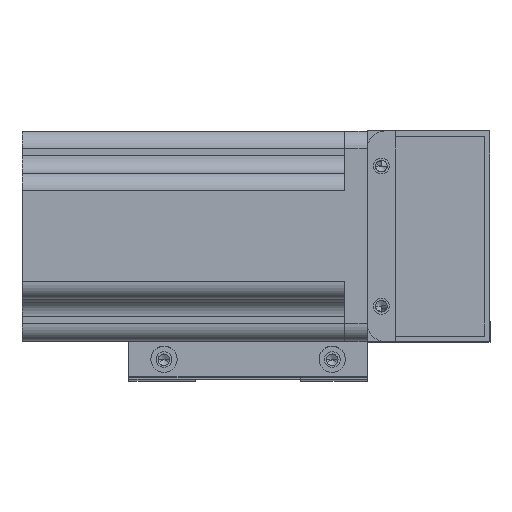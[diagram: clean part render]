
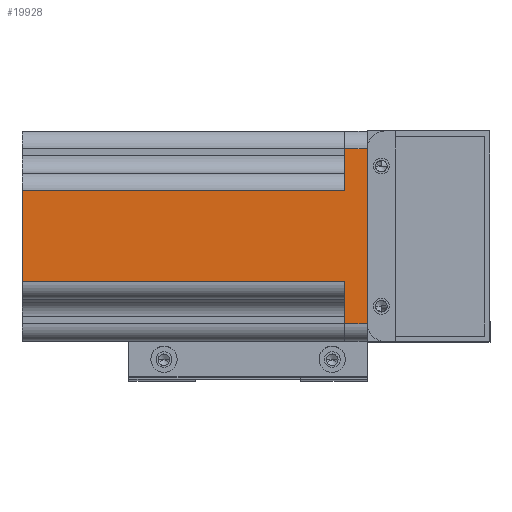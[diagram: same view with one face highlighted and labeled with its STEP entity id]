
A CAD part, top view. The second image highlights one B-rep face of the part: STEP entity #19928.
In plain terms, the highlighted planar face has unit normal (0, 0, 1) as drawn and (0, 1, 0) by its records, which use the part's own axes.
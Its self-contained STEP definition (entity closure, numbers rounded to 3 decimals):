
#35 = CARTESIAN_POINT ( 'NONE',  ( -25., 30., 6.5 ) ) ;
#132 = LINE ( 'NONE', #9503, #7995 ) ;
#442 = DIRECTION ( 'NONE',  ( 0., 0., 1. ) ) ;
#914 = CARTESIAN_POINT ( 'NONE',  ( -25., 30., 0. ) ) ;
#1164 = CARTESIAN_POINT ( 'NONE',  ( -25., 30., 0. ) ) ;
#1261 = ORIENTED_EDGE ( 'NONE', *, *, #13698, .F. ) ;
#2770 = DIRECTION ( 'NONE',  ( 0., 0., -1. ) ) ;
#3170 = DIRECTION ( 'NONE',  ( -1., 0., 0. ) ) ;
#3651 = DIRECTION ( 'NONE',  ( 0., 0., -1. ) ) ;
#3711 = VECTOR ( 'NONE', #442, 1000. ) ;
#3780 = VERTEX_POINT ( 'NONE', #7729 ) ;
#3999 = LINE ( 'NONE', #22349, #23915 ) ;
#4012 = LINE ( 'NONE', #21007, #6451 ) ;
#4023 = PLANE ( 'NONE',  #11636 ) ;
#4482 = DIRECTION ( 'NONE',  ( -1., 0., 0. ) ) ;
#4523 = CARTESIAN_POINT ( 'NONE',  ( 25., 30., 0. ) ) ;
#4610 = VERTEX_POINT ( 'NONE', #1164 ) ;
#4773 = EDGE_LOOP ( 'NONE', ( #6024, #8104, #5326, #19639, #14260, #14166, #1261, #8090 ) ) ;
#5005 = VERTEX_POINT ( 'NONE', #21678 ) ;
#5326 = ORIENTED_EDGE ( 'NONE', *, *, #6663, .F. ) ;
#5764 = EDGE_CURVE ( 'NONE', #17309, #3780, #4012, .T. ) ;
#6024 = ORIENTED_EDGE ( 'NONE', *, *, #12546, .T. ) ;
#6436 = VECTOR ( 'NONE', #3651, 1000. ) ;
#6451 = VECTOR ( 'NONE', #11423, 1000. ) ;
#6663 = EDGE_CURVE ( 'NONE', #20969, #3780, #17171, .T. ) ;
#6697 = VERTEX_POINT ( 'NONE', #4523 ) ;
#7729 = CARTESIAN_POINT ( 'NONE',  ( 13., 30., -92. ) ) ;
#7995 = VECTOR ( 'NONE', #13424, 1000. ) ;
#8090 = ORIENTED_EDGE ( 'NONE', *, *, #22936, .T. ) ;
#8104 = ORIENTED_EDGE ( 'NONE', *, *, #5764, .T. ) ;
#9419 = EDGE_CURVE ( 'NONE', #5005, #4610, #15217, .T. ) ;
#9466 = LINE ( 'NONE', #17950, #3711 ) ;
#9503 = CARTESIAN_POINT ( 'NONE',  ( -25., 30., 6.5 ) ) ;
#9866 = DIRECTION ( 'NONE',  ( 0., -1., 0. ) ) ;
#10062 = EDGE_CURVE ( 'NONE', #20969, #14774, #9466, .T. ) ;
#11270 = CARTESIAN_POINT ( 'NONE',  ( -25., 30., 6.5 ) ) ;
#11423 = DIRECTION ( 'NONE',  ( 0., 0., -1. ) ) ;
#11636 = AXIS2_PLACEMENT_3D ( 'NONE', #35, #9866, #17553 ) ;
#12058 = FACE_OUTER_BOUND ( 'NONE', #4773, .T. ) ;
#12546 = EDGE_CURVE ( 'NONE', #6697, #17309, #14801, .T. ) ;
#12679 = VECTOR ( 'NONE', #22050, 1000. ) ;
#13424 = DIRECTION ( 'NONE',  ( -1., 0., 0. ) ) ;
#13698 = EDGE_CURVE ( 'NONE', #17164, #5005, #132, .T. ) ;
#14166 = ORIENTED_EDGE ( 'NONE', *, *, #9419, .F. ) ;
#14260 = ORIENTED_EDGE ( 'NONE', *, *, #24653, .T. ) ;
#14771 = CARTESIAN_POINT ( 'NONE',  ( -25., 30., 0. ) ) ;
#14774 = VERTEX_POINT ( 'NONE', #19134 ) ;
#14801 = LINE ( 'NONE', #14771, #25036 ) ;
#15217 = LINE ( 'NONE', #11270, #6436 ) ;
#16312 = VECTOR ( 'NONE', #4482, 1000. ) ;
#17164 = VERTEX_POINT ( 'NONE', #18729 ) ;
#17171 = LINE ( 'NONE', #17958, #12679 ) ;
#17302 = CARTESIAN_POINT ( 'NONE',  ( 13., 30., 0. ) ) ;
#17309 = VERTEX_POINT ( 'NONE', #17302 ) ;
#17553 = DIRECTION ( 'NONE',  ( 0., 0., -1. ) ) ;
#17950 = CARTESIAN_POINT ( 'NONE',  ( -13., 30., 6.5 ) ) ;
#17958 = CARTESIAN_POINT ( 'NONE',  ( -18., 30., -92. ) ) ;
#18729 = CARTESIAN_POINT ( 'NONE',  ( 25., 30., 6.5 ) ) ;
#19134 = CARTESIAN_POINT ( 'NONE',  ( -13., 30., 0. ) ) ;
#19639 = ORIENTED_EDGE ( 'NONE', *, *, #10062, .T. ) ;
#19928 = ADVANCED_FACE ( 'NONE', ( #12058 ), #4023, .F. ) ;
#20969 = VERTEX_POINT ( 'NONE', #22298 ) ;
#21007 = CARTESIAN_POINT ( 'NONE',  ( 13., 30., 6.5 ) ) ;
#21678 = CARTESIAN_POINT ( 'NONE',  ( -25., 30., 6.5 ) ) ;
#22050 = DIRECTION ( 'NONE',  ( 1., 0., 0. ) ) ;
#22298 = CARTESIAN_POINT ( 'NONE',  ( -13., 30., -92. ) ) ;
#22324 = LINE ( 'NONE', #914, #16312 ) ;
#22349 = CARTESIAN_POINT ( 'NONE',  ( 25., 30., 6.5 ) ) ;
#22936 = EDGE_CURVE ( 'NONE', #17164, #6697, #3999, .T. ) ;
#23915 = VECTOR ( 'NONE', #2770, 1000. ) ;
#24653 = EDGE_CURVE ( 'NONE', #14774, #4610, #22324, .T. ) ;
#25036 = VECTOR ( 'NONE', #3170, 1000. ) ;
